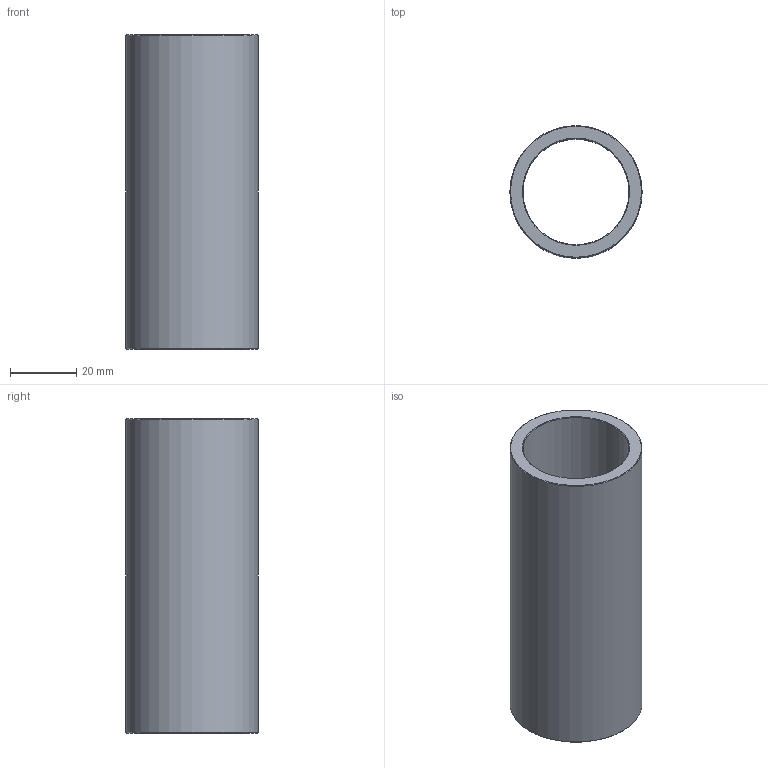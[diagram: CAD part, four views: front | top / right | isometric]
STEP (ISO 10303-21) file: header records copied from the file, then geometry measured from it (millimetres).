
FILE_DESCRIPTION(('STEP AP203'),'1');
FILE_NAME('C:/Users/Rodrigo/Desktop/GA4.032.095-1.step','2016-11-07T17:21:46',(' '),(' '),'Spatial InterOp 3D',' ',' ');
FILE_SCHEMA(('CONFIG_CONTROL_DESIGN'));
Length unit declared in the file: millimetre
Products named in the file (1): 1
Bounding box: 40 x 40 x 95 mm (x, y, z)
Volume: 42967.9 mm3; surface area: 22340.3 mm2
Topology: 1 solids, 1 shells, 8 faces, 14 edges, 8 vertices
Faces by surface type: cone 4, cylinder 2, plane 2
Full cylindrical faces by diameter (mm): 32 x1, 40 x1
Entity records: 212 total; most frequent: DIRECTION 34, CARTESIAN_POINT 25, AXIS2_PLACEMENT_3D 17, EDGE_LOOP 16, ORIENTED_EDGE 16, FACE_OUTER_BOUND 10, ADVANCED_FACE 8, EDGE_CURVE 8
